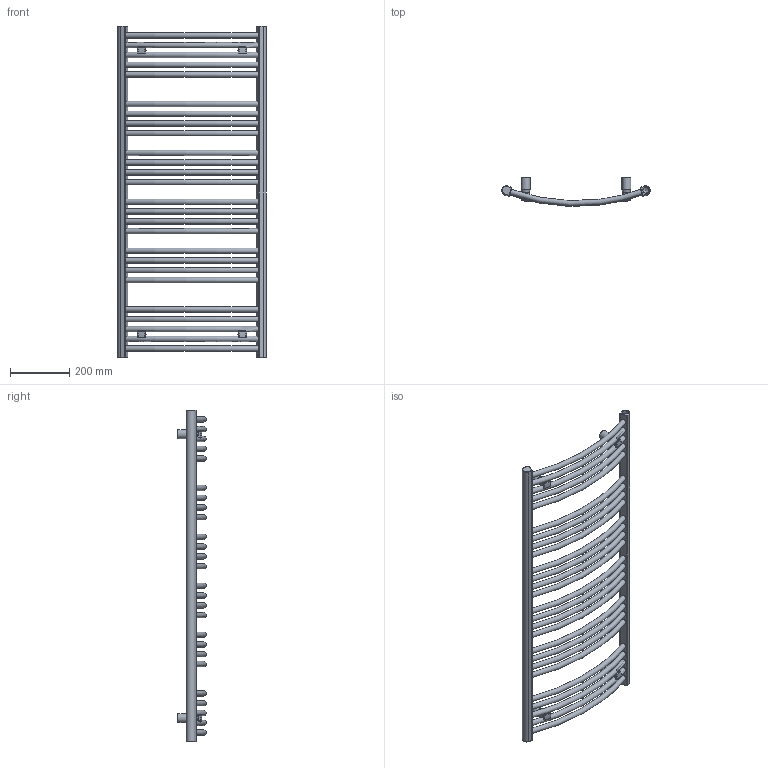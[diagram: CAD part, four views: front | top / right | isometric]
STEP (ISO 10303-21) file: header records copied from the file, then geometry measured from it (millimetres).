
FILE_DESCRIPTION((''),'2;1');
FILE_NAME('Z:\R\G\P\RGPH14 - Grzejnik Domi\Work\Inventor\Marketing\STEP\DO-11-50 SX.stp','2012-07-23T16:11:44',('PioRo'),(''),'Autodesk Inventor 2012','Autodesk Inventor 2012','');
FILE_SCHEMA(('AUTOMOTIVE_DESIGN { 1 0 10303 214 1 1 1 1 }'));
Length unit declared in the file: millimetre
Products named in the file (1): Część2
Bounding box: 500 x 95.68 x 1116 mm (x, y, z)
Volume: 4927738.6 mm3; surface area: 923431.5 mm2
Topology: 1 solids, 5 shells, 220 faces, 545 edges, 345 vertices
Faces by surface type: cylinder 81, plane 70, torus 42, bspline 20, cone 7
Full cylindrical faces by diameter (mm): 5 x8, 9 x4, 18.631 x3, 21.8 x4, 30 x4
Entity records: 7477 total; most frequent: CARTESIAN_POINT 2177, DIRECTION 1038, ORIENTED_EDGE 948, EDGE_CURVE 474, AXIS2_PLACEMENT_3D 447, EDGE_LOOP 368, VERTEX_POINT 330, CIRCLE 230
